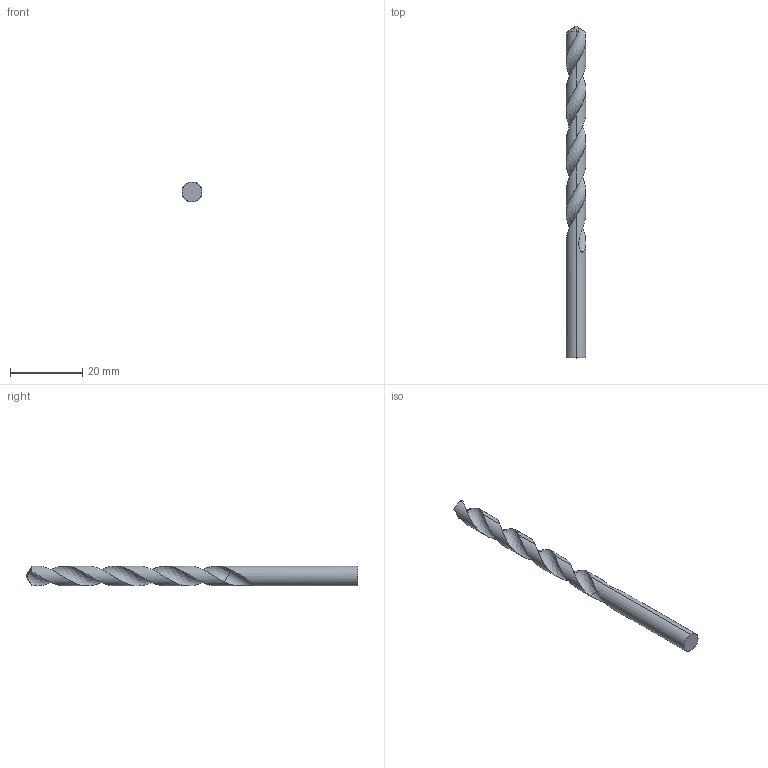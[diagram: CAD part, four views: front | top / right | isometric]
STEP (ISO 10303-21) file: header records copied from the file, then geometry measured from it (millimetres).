
FILE_DESCRIPTION (( 'STEP AP214' ), '1' );
FILE_NAME ('084.818.005.STEP', '2021-02-05T11:02:06', ( '' ), ( '' ), 'SwSTEP 2.0', 'SolidWorks 2018', '' );
FILE_SCHEMA (( 'AUTOMOTIVE_DESIGN' ));
Length unit declared in the file: millimetre
Products named in the file (1): 084.818.005
Bounding box: 5.5 x 91.8 x 5.5 mm (x, y, z)
Volume: 1465 mm3; surface area: 1654.7 mm2
Topology: 1 solids, 1 shells, 19 faces, 50 edges, 31 vertices
Faces by surface type: cylinder 12, plane 3, cone 2, bspline 2
Entity records: 2864 total; most frequent: CARTESIAN_POINT 2445, ORIENTED_EDGE 96, DIRECTION 66, EDGE_CURVE 48, VERTEX_POINT 31, AXIS2_PLACEMENT_3D 26, ADVANCED_FACE 19, EDGE_LOOP 19
